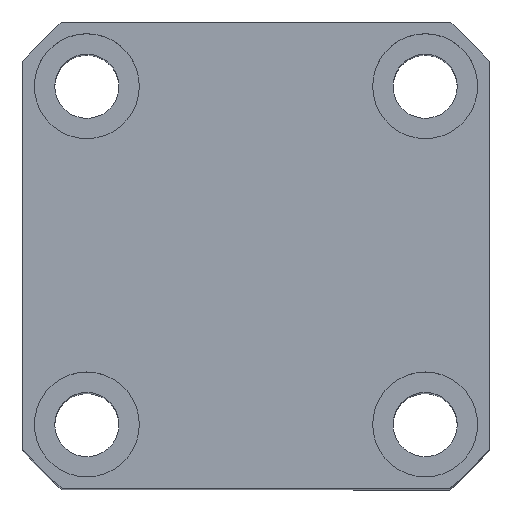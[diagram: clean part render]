
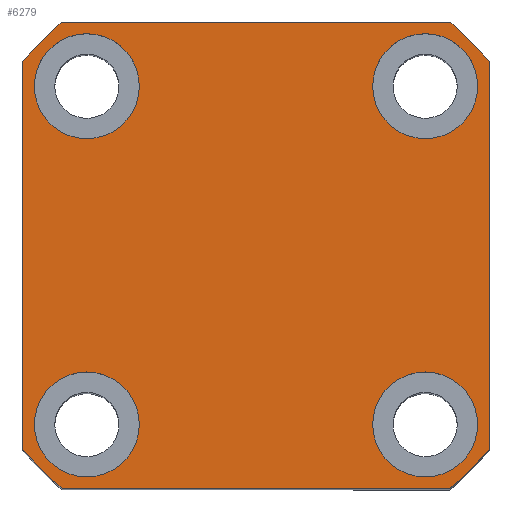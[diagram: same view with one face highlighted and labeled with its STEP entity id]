
A CAD part, top view. The second image highlights one B-rep face of the part: STEP entity #6279.
In plain terms, the highlighted planar face has unit normal (0, 0, 1).
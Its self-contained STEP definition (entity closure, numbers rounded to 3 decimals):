
#54 = CARTESIAN_POINT ( 'NONE',  ( 0., 0., 67.5 ) ) ;
#145 = DIRECTION ( 'NONE',  ( 0., 0., 1. ) ) ;
#199 = DIRECTION ( 'NONE',  ( 1., 0., 0. ) ) ;
#303 = CARTESIAN_POINT ( 'NONE',  ( 29., -29., 67.5 ) ) ;
#313 = ORIENTED_EDGE ( 'NONE', *, *, #8898, .F. ) ;
#348 = VERTEX_POINT ( 'NONE', #8382 ) ;
#521 = ORIENTED_EDGE ( 'NONE', *, *, #2662, .T. ) ;
#834 = CARTESIAN_POINT ( 'NONE',  ( -40., 33.226, 67.5 ) ) ;
#1042 = CARTESIAN_POINT ( 'NONE',  ( 38., 29., 67.5 ) ) ;
#1101 = ORIENTED_EDGE ( 'NONE', *, *, #12280, .T. ) ;
#1159 = AXIS2_PLACEMENT_3D ( 'NONE', #5946, #2696, #7030 ) ;
#1167 = CARTESIAN_POINT ( 'NONE',  ( 20., -29., 67.5 ) ) ;
#1170 = ORIENTED_EDGE ( 'NONE', *, *, #10979, .F. ) ;
#1286 = CIRCLE ( 'NONE', #9804, 52. ) ;
#1492 = AXIS2_PLACEMENT_3D ( 'NONE', #2243, #145, #13352 ) ;
#1500 = CARTESIAN_POINT ( 'NONE',  ( -29., -29., 67.5 ) ) ;
#1552 = ORIENTED_EDGE ( 'NONE', *, *, #1804, .F. ) ;
#1555 = ORIENTED_EDGE ( 'NONE', *, *, #13836, .T. ) ;
#1804 = EDGE_CURVE ( 'NONE', #6798, #5707, #4069, .T. ) ;
#1930 = EDGE_CURVE ( 'NONE', #4834, #10283, #3030, .T. ) ;
#2024 = CARTESIAN_POINT ( 'NONE',  ( -33.226, 40., 67.5 ) ) ;
#2068 = DIRECTION ( 'NONE',  ( 1., 0., 0. ) ) ;
#2123 = EDGE_LOOP ( 'NONE', ( #8043, #1170 ) ) ;
#2162 = FACE_OUTER_BOUND ( 'NONE', #12171, .T. ) ;
#2196 = CARTESIAN_POINT ( 'NONE',  ( -29., 29., 67.5 ) ) ;
#2197 = DIRECTION ( 'NONE',  ( 1., 0., 0. ) ) ;
#2243 = CARTESIAN_POINT ( 'NONE',  ( 0., 0., 67.5 ) ) ;
#2325 = DIRECTION ( 'NONE',  ( 1., 0., 0. ) ) ;
#2410 = VERTEX_POINT ( 'NONE', #5490 ) ;
#2475 = DIRECTION ( 'NONE',  ( 1., 0., 0. ) ) ;
#2498 = AXIS2_PLACEMENT_3D ( 'NONE', #2196, #9790, #2068 ) ;
#2594 = EDGE_LOOP ( 'NONE', ( #8567, #1552 ) ) ;
#2662 = EDGE_CURVE ( 'NONE', #9741, #4834, #7606, .T. ) ;
#2696 = DIRECTION ( 'NONE',  ( 0., 0., 1. ) ) ;
#2783 = CARTESIAN_POINT ( 'NONE',  ( -33.226, -40., 67.5 ) ) ;
#2818 = DIRECTION ( 'NONE',  ( 1., 0., 0. ) ) ;
#2986 = ORIENTED_EDGE ( 'NONE', *, *, #12746, .F. ) ;
#3030 = CIRCLE ( 'NONE', #3315, 52. ) ;
#3315 = AXIS2_PLACEMENT_3D ( 'NONE', #4944, #5927, #10402 ) ;
#3392 = VERTEX_POINT ( 'NONE', #4930 ) ;
#3430 = ORIENTED_EDGE ( 'NONE', *, *, #9601, .F. ) ;
#3514 = DIRECTION ( 'NONE',  ( 0., 0., 1. ) ) ;
#3531 = DIRECTION ( 'NONE',  ( -1., 0., 0. ) ) ;
#3835 = DIRECTION ( 'NONE',  ( 0., -1., 0. ) ) ;
#3847 = LINE ( 'NONE', #5141, #11197 ) ;
#3879 = VECTOR ( 'NONE', #3835, 1000. ) ;
#3887 = DIRECTION ( 'NONE',  ( 1., 0., 0. ) ) ;
#3895 = CIRCLE ( 'NONE', #12308, 9. ) ;
#4069 = CIRCLE ( 'NONE', #6513, 9. ) ;
#4387 = CARTESIAN_POINT ( 'NONE',  ( -33.226, 40., 67.5 ) ) ;
#4395 = CARTESIAN_POINT ( 'NONE',  ( 40., 33.226, 67.5 ) ) ;
#4571 = CIRCLE ( 'NONE', #2498, 9. ) ;
#4808 = ORIENTED_EDGE ( 'NONE', *, *, #5571, .T. ) ;
#4834 = VERTEX_POINT ( 'NONE', #4387 ) ;
#4905 = DIRECTION ( 'NONE',  ( 0., 0., 1. ) ) ;
#4923 = VECTOR ( 'NONE', #3531, 1000. ) ;
#4930 = CARTESIAN_POINT ( 'NONE',  ( -20., 29., 67.5 ) ) ;
#4944 = CARTESIAN_POINT ( 'NONE',  ( 0., 0., 67.5 ) ) ;
#5141 = CARTESIAN_POINT ( 'NONE',  ( 40., 33.226, 67.5 ) ) ;
#5289 = FACE_BOUND ( 'NONE', #6737, .T. ) ;
#5319 = VERTEX_POINT ( 'NONE', #1167 ) ;
#5479 = CARTESIAN_POINT ( 'NONE',  ( 33.226, 40., 67.5 ) ) ;
#5490 = CARTESIAN_POINT ( 'NONE',  ( 20., 29., 67.5 ) ) ;
#5523 = DIRECTION ( 'NONE',  ( 0., 0., 1. ) ) ;
#5571 = EDGE_CURVE ( 'NONE', #8706, #9741, #9001, .T. ) ;
#5601 = FACE_BOUND ( 'NONE', #2123, .T. ) ;
#5630 = CARTESIAN_POINT ( 'NONE',  ( -29., 29., 67.5 ) ) ;
#5679 = DIRECTION ( 'NONE',  ( 0., 0., 1. ) ) ;
#5707 = VERTEX_POINT ( 'NONE', #8287 ) ;
#5767 = VECTOR ( 'NONE', #8946, 1000. ) ;
#5927 = DIRECTION ( 'NONE',  ( 0., 0., 1. ) ) ;
#5946 = CARTESIAN_POINT ( 'NONE',  ( 0., 0., 67.5 ) ) ;
#6011 = AXIS2_PLACEMENT_3D ( 'NONE', #5630, #5679, #2475 ) ;
#6039 = ORIENTED_EDGE ( 'NONE', *, *, #11461, .T. ) ;
#6279 = ADVANCED_FACE ( 'NONE', ( #8484, #14171, #5601, #5289, #2162 ), #9338, .T. ) ;
#6312 = DIRECTION ( 'NONE',  ( 0., 1., 0. ) ) ;
#6513 = AXIS2_PLACEMENT_3D ( 'NONE', #7759, #8854, #2325 ) ;
#6524 = EDGE_LOOP ( 'NONE', ( #2986, #14018 ) ) ;
#6558 = CARTESIAN_POINT ( 'NONE',  ( 29., 29., 67.5 ) ) ;
#6559 = CIRCLE ( 'NONE', #13156, 9. ) ;
#6624 = CARTESIAN_POINT ( 'NONE',  ( 38., -29., 67.5 ) ) ;
#6679 = EDGE_CURVE ( 'NONE', #3392, #7054, #10908, .T. ) ;
#6727 = CARTESIAN_POINT ( 'NONE',  ( -38., 29., 67.5 ) ) ;
#6737 = EDGE_LOOP ( 'NONE', ( #3430, #313 ) ) ;
#6798 = VERTEX_POINT ( 'NONE', #7008 ) ;
#7008 = CARTESIAN_POINT ( 'NONE',  ( -38., -29., 67.5 ) ) ;
#7030 = DIRECTION ( 'NONE',  ( 1., 0., 0. ) ) ;
#7053 = AXIS2_PLACEMENT_3D ( 'NONE', #9660, #8689, #8545 ) ;
#7054 = VERTEX_POINT ( 'NONE', #6727 ) ;
#7218 = EDGE_CURVE ( 'NONE', #9602, #7668, #7944, .T. ) ;
#7606 = LINE ( 'NONE', #2024, #4923 ) ;
#7668 = VERTEX_POINT ( 'NONE', #8607 ) ;
#7747 = CIRCLE ( 'NONE', #1492, 52. ) ;
#7759 = CARTESIAN_POINT ( 'NONE',  ( -29., -29., 67.5 ) ) ;
#7944 = LINE ( 'NONE', #2783, #5767 ) ;
#8043 = ORIENTED_EDGE ( 'NONE', *, *, #6679, .F. ) ;
#8287 = CARTESIAN_POINT ( 'NONE',  ( -20., -29., 67.5 ) ) ;
#8300 = CIRCLE ( 'NONE', #7053, 9. ) ;
#8382 = CARTESIAN_POINT ( 'NONE',  ( 40., -33.226, 67.5 ) ) ;
#8424 = ORIENTED_EDGE ( 'NONE', *, *, #12350, .T. ) ;
#8484 = FACE_BOUND ( 'NONE', #6524, .T. ) ;
#8545 = DIRECTION ( 'NONE',  ( 1., 0., 0. ) ) ;
#8567 = ORIENTED_EDGE ( 'NONE', *, *, #10653, .F. ) ;
#8607 = CARTESIAN_POINT ( 'NONE',  ( 33.226, -40., 67.5 ) ) ;
#8689 = DIRECTION ( 'NONE',  ( 0., 0., 1. ) ) ;
#8706 = VERTEX_POINT ( 'NONE', #4395 ) ;
#8714 = VERTEX_POINT ( 'NONE', #1042 ) ;
#8726 = DIRECTION ( 'NONE',  ( 0., 0., 1. ) ) ;
#8829 = DIRECTION ( 'NONE',  ( 1., 0., 0. ) ) ;
#8854 = DIRECTION ( 'NONE',  ( 0., 0., 1. ) ) ;
#8898 = EDGE_CURVE ( 'NONE', #2410, #8714, #10927, .T. ) ;
#8946 = DIRECTION ( 'NONE',  ( 1., 0., 0. ) ) ;
#9001 = CIRCLE ( 'NONE', #1159, 52. ) ;
#9322 = LINE ( 'NONE', #10413, #3879 ) ;
#9338 = PLANE ( 'NONE',  #12627 ) ;
#9601 = EDGE_CURVE ( 'NONE', #8714, #2410, #8300, .T. ) ;
#9602 = VERTEX_POINT ( 'NONE', #10698 ) ;
#9660 = CARTESIAN_POINT ( 'NONE',  ( 29., 29., 67.5 ) ) ;
#9741 = VERTEX_POINT ( 'NONE', #5479 ) ;
#9790 = DIRECTION ( 'NONE',  ( 0., 0., 1. ) ) ;
#9804 = AXIS2_PLACEMENT_3D ( 'NONE', #54, #8726, #2197 ) ;
#10197 = CARTESIAN_POINT ( 'NONE',  ( -40., -33.226, 67.5 ) ) ;
#10283 = VERTEX_POINT ( 'NONE', #834 ) ;
#10309 = DIRECTION ( 'NONE',  ( 0., 0., 1. ) ) ;
#10342 = VERTEX_POINT ( 'NONE', #6624 ) ;
#10402 = DIRECTION ( 'NONE',  ( 1., 0., 0. ) ) ;
#10413 = CARTESIAN_POINT ( 'NONE',  ( -40., 33.226, 67.5 ) ) ;
#10414 = CARTESIAN_POINT ( 'NONE',  ( 29., -29., 67.5 ) ) ;
#10653 = EDGE_CURVE ( 'NONE', #5707, #6798, #3895, .T. ) ;
#10698 = CARTESIAN_POINT ( 'NONE',  ( -33.226, -40., 67.5 ) ) ;
#10908 = CIRCLE ( 'NONE', #6011, 9. ) ;
#10927 = CIRCLE ( 'NONE', #12954, 9. ) ;
#10979 = EDGE_CURVE ( 'NONE', #7054, #3392, #4571, .T. ) ;
#11099 = ORIENTED_EDGE ( 'NONE', *, *, #7218, .T. ) ;
#11165 = DIRECTION ( 'NONE',  ( 1., 0., 0. ) ) ;
#11197 = VECTOR ( 'NONE', #6312, 1000. ) ;
#11210 = CIRCLE ( 'NONE', #13505, 9. ) ;
#11461 = EDGE_CURVE ( 'NONE', #10283, #12046, #9322, .T. ) ;
#11486 = CARTESIAN_POINT ( 'NONE',  ( 0., 0., 67.5 ) ) ;
#12046 = VERTEX_POINT ( 'NONE', #10197 ) ;
#12171 = EDGE_LOOP ( 'NONE', ( #13878, #6039, #1101, #11099, #8424, #1555, #4808, #521 ) ) ;
#12280 = EDGE_CURVE ( 'NONE', #12046, #9602, #1286, .T. ) ;
#12308 = AXIS2_PLACEMENT_3D ( 'NONE', #1500, #3514, #11165 ) ;
#12350 = EDGE_CURVE ( 'NONE', #7668, #348, #7747, .T. ) ;
#12627 = AXIS2_PLACEMENT_3D ( 'NONE', #11486, #10309, #2818 ) ;
#12746 = EDGE_CURVE ( 'NONE', #10342, #5319, #11210, .T. ) ;
#12954 = AXIS2_PLACEMENT_3D ( 'NONE', #6558, #5523, #8829 ) ;
#13156 = AXIS2_PLACEMENT_3D ( 'NONE', #303, #13460, #199 ) ;
#13352 = DIRECTION ( 'NONE',  ( 1., 0., 0. ) ) ;
#13424 = EDGE_CURVE ( 'NONE', #5319, #10342, #6559, .T. ) ;
#13460 = DIRECTION ( 'NONE',  ( 0., 0., 1. ) ) ;
#13505 = AXIS2_PLACEMENT_3D ( 'NONE', #10414, #4905, #3887 ) ;
#13836 = EDGE_CURVE ( 'NONE', #348, #8706, #3847, .T. ) ;
#13878 = ORIENTED_EDGE ( 'NONE', *, *, #1930, .T. ) ;
#14018 = ORIENTED_EDGE ( 'NONE', *, *, #13424, .F. ) ;
#14171 = FACE_BOUND ( 'NONE', #2594, .T. ) ;
